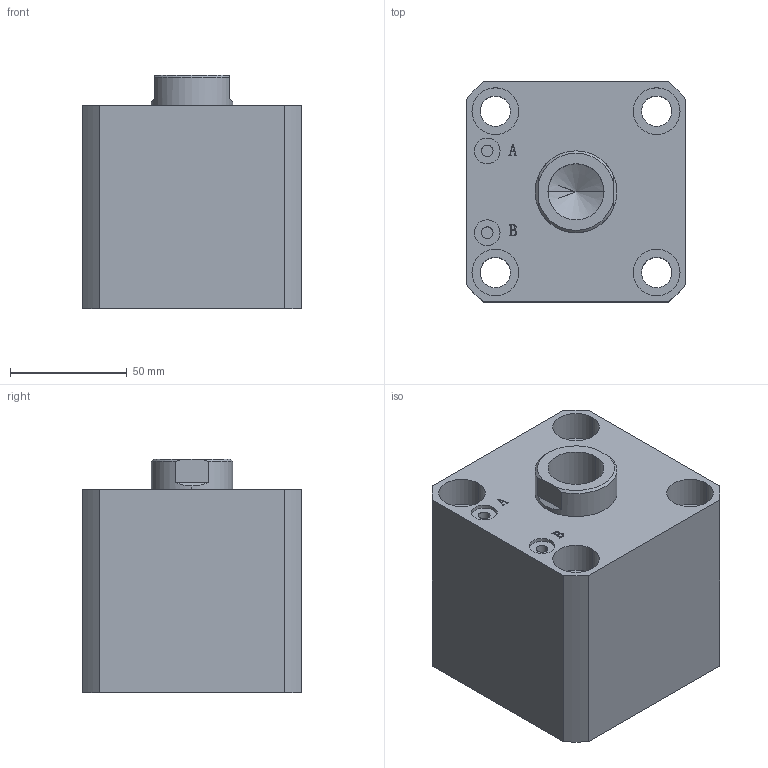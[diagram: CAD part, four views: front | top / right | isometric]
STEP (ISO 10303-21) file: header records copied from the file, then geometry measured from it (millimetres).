
FILE_DESCRIPTION (( 'STEP AP203' ), '1' );
FILE_NAME ('HTB-SDMA63-20N.STEP', '2019-10-08T01:02:04', ( '微软用户' ), ( '微软中国' ), 'SwSTEP 2.0', 'SolidWorks 2012', '' );
FILE_SCHEMA (( 'CONFIG_CONTROL_DESIGN' ));
Length unit declared in the file: millimetre
Products named in the file (3): HTB-SDMA63-20N; HTB-SDMA63-20N活塞杆; HTB-SDMA63-20掛极
Assembly tree (2 placements, depth 2):
  HTB-SDMA63-20N
    HTB-SDMA63-20掛极
    HTB-SDMA63-20N活塞杆
Bounding box: 94 x 94 x 100 mm (x, y, z)
Volume: 644563.1 mm3; surface area: 100029.3 mm2
Topology: 2 solids, 2 shells, 137 faces, 331 edges, 217 vertices
Faces by surface type: plane 65, cylinder 46, bspline 16, torus 6, cone 4
Entity records: 5070 total; most frequent: CARTESIAN_POINT 1576, ORIENTED_EDGE 658, DIRECTION 647, EDGE_CURVE 329, AXIS2_PLACEMENT_3D 232, VERTEX_POINT 217, VECTOR 183, LINE 183
